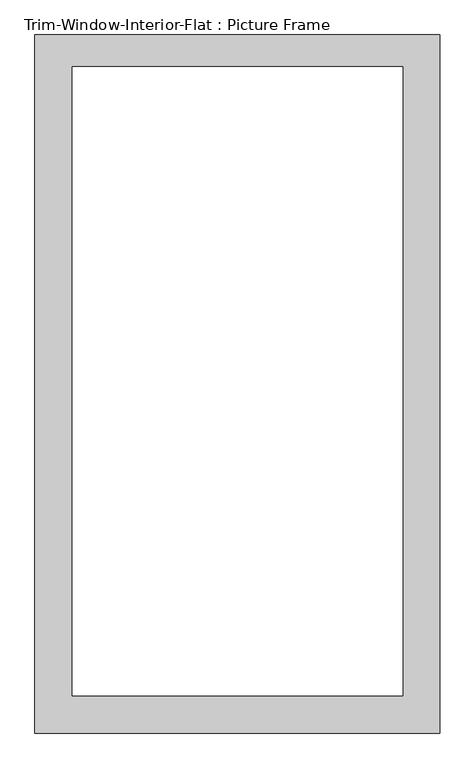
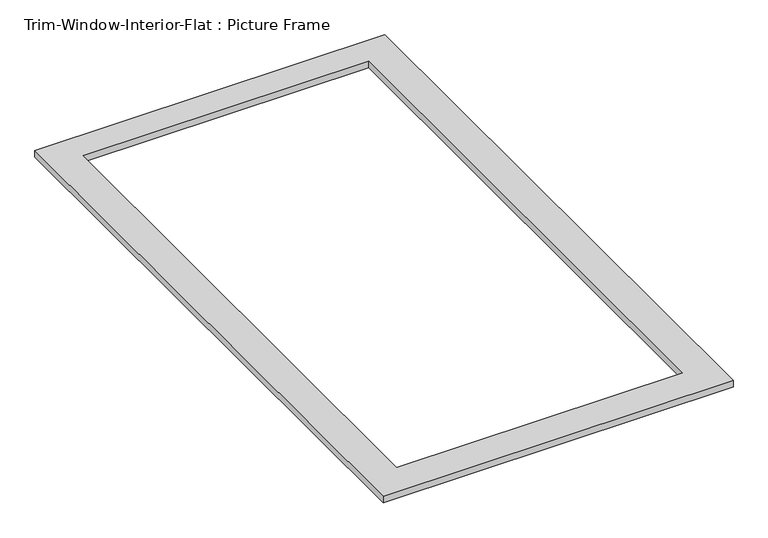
"""IFC4 building model written with IfcOpenShell, lengths in millimetres: proxy geometry, Trim-Window-Interior-Flat : Picture Frame."""

import ifcopenshell
import ifcopenshell.guid

model = None  # the IFC model being written
_history = None  # IfcOwnerHistory: only IFC2X3 demands one
_inside = {}  # id of a spatial element -> (the spatial element, [elements in it])
_under = {}  # id of a project, library or spatial element -> (it, [spatial elements below it])
_declared = {}  # id of a project -> (the project, [libraries it declares])
_typed = {}  # id of a type object -> (the type object, [elements of that type])
_made_of = {}  # id of a material, layer set ... -> (it, [elements and type objects made of it])


def new_model(schema):
    """Start an empty IFC model of exactly this schema.

    Asked for "IFC4X3", IfcOpenShell would pick the latest addendum, in which some entities
    have other attributes; the version numbers below select the first issue.
    IFC2X3 requires an IfcOwnerHistory on every rooted entity: one is made here for all.
    """
    global model, _history
    if schema == "IFC4X3":
        model = ifcopenshell.file(schema_version=(4, 3, 0, 0))
    else:
        model = ifcopenshell.file(schema=schema)
    _inside.clear()
    _under.clear()
    _declared.clear()
    _typed.clear()
    _made_of.clear()
    _history = None
    if model.schema == "IFC2X3":
        org = make("IfcOrganization", Name="unknown")
        user = make(
            "IfcPersonAndOrganization",
            ThePerson=make("IfcPerson", FamilyName="unknown"),
            TheOrganization=org,
        )
        app = make(
            "IfcApplication",
            ApplicationDeveloper=org,
            Version="unknown",
            ApplicationFullName="unknown",
            ApplicationIdentifier="unknown",
        )
        _history = make(
            "IfcOwnerHistory",
            OwningUser=user,
            OwningApplication=app,
            ChangeAction="ADDED",
            CreationDate=0,
        )
    return model


def make(cls, **values):
    """One entity of the class cls with the attributes given. An attribute that is None is left unset."""
    return model.create_entity(
        cls, **{name: value for name, value in values.items() if value is not None}
    )


def rooted(cls, **values):
    """An entity with a GlobalId (a new one), such as an element, a storey or a relation."""
    return make(cls, GlobalId=ifcopenshell.guid.new(), OwnerHistory=_history, **values)


def si_unit(unit_type, name, prefix=None):
    """IfcSIUnit, for example si_unit("LENGTHUNIT", "METRE", prefix="MILLI")."""
    return make("IfcSIUnit", UnitType=unit_type, Prefix=prefix, Name=name)


def assignment(units):
    """IfcUnitAssignment: the units of a project."""
    return None if units is None else make("IfcUnitAssignment", Units=units)


def point(xyz):
    """IfcCartesianPoint."""
    return None if xyz is None else make("IfcCartesianPoint", Coordinates=xyz)


def direction(xyz):
    """IfcDirection."""
    return None if xyz is None else make("IfcDirection", DirectionRatios=xyz)


def frame(location, z_axis=None, x_axis=None):
    """IfcAxis2Placement3D, a coordinate frame: its origin and axes. An axis left out is left unset."""
    return make(
        "IfcAxis2Placement3D",
        Location=point(location),
        Axis=direction(z_axis),
        RefDirection=direction(x_axis),
    )


def origin():
    """The frame at (0, 0, 0) with its axes left unset."""
    return frame((0.0, 0.0, 0.0))


def origin_with_axes():
    """The frame at (0, 0, 0) with the z axis (0, 0, 1) and the x axis (1, 0, 0) written out."""
    return frame((0.0, 0.0, 0.0), z_axis=(0.0, 0.0, 1.0), x_axis=(1.0, 0.0, 0.0))


def place(relative_to, where):
    """IfcLocalPlacement: puts the frame where relative to a parent placement (None: the world)."""
    return make(
        "IfcLocalPlacement", PlacementRelTo=relative_to, RelativePlacement=where
    )


def context(
    kind, dimensions, precision=None, world=None, true_north=None, identifier=None
):
    """IfcGeometricRepresentationContext, for example the 3D "Model" context."""
    return make(
        "IfcGeometricRepresentationContext",
        ContextIdentifier=identifier,
        ContextType=kind,
        CoordinateSpaceDimension=dimensions,
        Precision=precision,
        WorldCoordinateSystem=world,
        TrueNorth=true_north,
    )


def project(units=None, contexts=None):
    """IfcProject with its units and contexts."""
    return rooted(
        "IfcProject",
        Name="project",
        RepresentationContexts=contexts,
        UnitsInContext=assignment(units),
    )


def spatial(cls, under=None, at=None, **own):
    """A site, building, storey or space (cls), placed at a placement, below another one or the project."""
    s = rooted(cls, ObjectPlacement=at, **own)
    if under is not None:
        _under.setdefault(under.id(), (under, []))[1].append(s)
    return s


def polyline(points):
    """IfcPolyline through the points."""
    return make("IfcPolyline", Points=[point(p) for p in points])


def outline(outer, holes=None, kind="AREA"):
    """IfcArbitraryClosedProfileDef: a profile drawn as a closed curve; with holes, ...WithVoids."""
    if holes is None:
        return make("IfcArbitraryClosedProfileDef", ProfileType=kind, OuterCurve=outer)
    return make(
        "IfcArbitraryProfileDefWithVoids",
        ProfileType=kind,
        OuterCurve=outer,
        InnerCurves=holes,
    )


def extrude(swept, where, along, depth):
    """IfcExtrudedAreaSolid: the profile swept, set in the frame where, extruded along a direction by depth."""
    return make(
        "IfcExtrudedAreaSolid",
        SweptArea=swept,
        Position=where,
        ExtrudedDirection=direction(along),
        Depth=depth,
    )


def shape(context_of_items, identifier, shape_type, items):
    """IfcShapeRepresentation: the items that make up one representation, for example the "Body"."""
    return make(
        "IfcShapeRepresentation",
        ContextOfItems=context_of_items,
        RepresentationIdentifier=identifier,
        RepresentationType=shape_type,
        Items=items,
    )


def source(mapping_origin, context_of_items, identifier, shape_type, items):
    """IfcRepresentationMap: a shape defined once, which mapped items show again and again."""
    return make(
        "IfcRepresentationMap",
        MappingOrigin=mapping_origin,
        MappedRepresentation=shape(context_of_items, identifier, shape_type, items),
    )


def transform(
    local_origin,
    x_axis=None,
    y_axis=None,
    z_axis=None,
    scale=None,
    scale2=None,
    scale3=None,
    uniform=True,
):
    """IfcCartesianTransformationOperator3D, or its non-uniform kind. x_axis, y_axis, z_axis: its Axis1, 2, 3."""
    if uniform:
        return make(
            "IfcCartesianTransformationOperator3D",
            Axis1=direction(x_axis),
            Axis2=direction(y_axis),
            LocalOrigin=point(local_origin),
            Scale=scale,
            Axis3=direction(z_axis),
        )
    return make(
        "IfcCartesianTransformationOperator3DnonUniform",
        Axis1=direction(x_axis),
        Axis2=direction(y_axis),
        LocalOrigin=point(local_origin),
        Scale=scale,
        Axis3=direction(z_axis),
        Scale2=scale2,
        Scale3=scale3,
    )


def mapped(mapping_source, mapping_target):
    """IfcMappedItem: shows the shape of a source again, moved by a transform."""
    return make(
        "IfcMappedItem", MappingSource=mapping_source, MappingTarget=mapping_target
    )


def made_of(thing, what):
    """Note that an element or type object is made of a material, layer set ...; save() writes the relation."""
    if what is not None:
        _made_of.setdefault(what.id(), (what, []))[1].append(thing)
    return thing


def element(
    cls,
    number,
    at=None,
    inside=None,
    cuts=None,
    type_object=None,
    material=None,
    context=None,
    identifier="Body",
    shape_type=None,
    held_by="IfcProductDefinitionShape",
    body=None,
    shapes=None,
    **own,
):
    """One element of the class cls, such as IfcWall. Its Tag is "e" and its number.

    at: its placement. inside: the storey or other place that contains it. cuts: it is an
    opening in that element (IfcRelVoidsElement). A single representation is given by context,
    identifier, shape_type and body (its items); several are given by shapes. held_by: the class
    of the entity that holds the representations. save() writes the other relations.
    """
    e = rooted(cls, Tag="e%d" % number, ObjectPlacement=at, **own)
    if body is not None:
        shapes = [shape(context, identifier, shape_type, body)]
    if shapes is not None:
        e.Representation = make(held_by, Representations=shapes)
    if inside is not None:
        _inside.setdefault(inside.id(), (inside, []))[1].append(e)
    if cuts is not None:
        rooted(
            "IfcRelVoidsElement", RelatingBuildingElement=cuts, RelatedOpeningElement=e
        )
    if type_object is not None:
        _typed.setdefault(type_object.id(), (type_object, []))[1].append(e)
    return made_of(e, material)


def aggregate(whole, parts):
    """IfcRelAggregates: a whole, such as a stair, and the parts it consists of."""
    return rooted("IfcRelAggregates", RelatingObject=whole, RelatedObjects=parts)


def save(model, path):
    """Write the relations noted so far, then the file.

    IfcRelAggregates (storeys below a building ...), IfcRelContainedInSpatialStructure (elements
    in a storey), IfcRelDefinesByType, IfcRelAssociatesMaterial and IfcRelDeclares: one each for
    every whole, place, type object, material and project.
    """
    for whole, parts in _under.values():
        aggregate(whole, parts)
    for where, things in _inside.values():
        rooted(
            "IfcRelContainedInSpatialStructure",
            RelatedElements=things,
            RelatingStructure=where,
        )
    for kind, things in _typed.values():
        rooted("IfcRelDefinesByType", RelatedObjects=things, RelatingType=kind)
    for what, things in _made_of.values():
        rooted("IfcRelAssociatesMaterial", RelatedObjects=things, RelatingMaterial=what)
    for by, libraries in _declared.values():
        rooted("IfcRelDeclares", RelatingContext=by, RelatedDefinitions=libraries)
    model.write(path)


def trim_window_interior_flat_picture_frame_e9181bb7(model_context):
    return source(origin(), model_context, "Body", "SweptSolid", [
        extrude(outline(polyline([(482.6, 63.5), (482.6, -1600.2), (-482.6, -1600.2), (-482.6, 63.5), (482.6, 63.5)]), holes=[polyline([(393.7, -12.7), (-393.7, -12.7), (-393.7, -1511.3), (393.7, -1511.3), (393.7, -12.7)])]), origin_with_axes(), (0.0, 0.0, 1.0), 19.05),
    ])


if __name__ == "__main__":
    model = new_model("IFC4")
    model_context = context("Model", 3, world=origin())
    ifc_project = project(units=[si_unit("LENGTHUNIT", "METRE", prefix="MILLI")], contexts=[model_context])
    site = spatial("IfcSite", under=ifc_project)
    building = spatial("IfcBuilding", under=site)
    placement = place(None, origin())
    trim_window_interior_flat_picture_frame_shape = trim_window_interior_flat_picture_frame_e9181bb7(model_context)
    element("IfcBuildingElementProxy", 1, Name="Trim-Window-Interior-Flat : Picture Frame", ObjectType="Trim-Window-Interior-Flat : Picture Frame", at=placement, inside=building, context=model_context, shape_type="MappedRepresentation", body=[
        mapped(trim_window_interior_flat_picture_frame_shape, transform((0.0, 0.0, 0.0), x_axis=(1.0, 0.0, 0.0), y_axis=(0.0, 1.0, 0.0), z_axis=(0.0, 0.0, 1.0))),
    ])
    save(model, "model.ifc")
